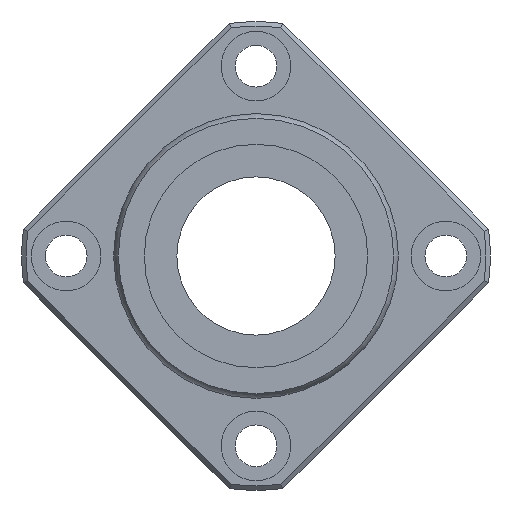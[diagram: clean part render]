
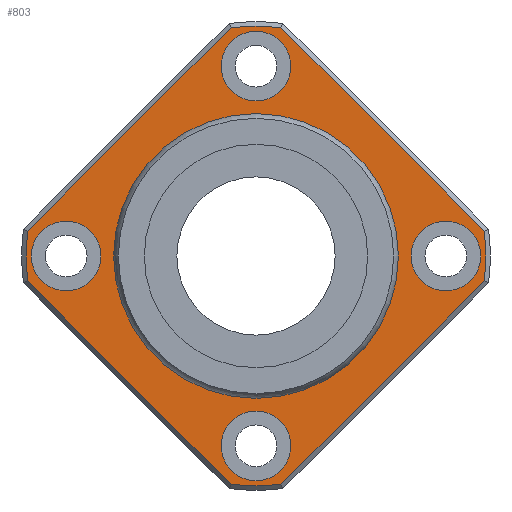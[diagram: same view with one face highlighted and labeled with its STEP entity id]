
A CAD part, left-side view. The second image highlights one B-rep face of the part: STEP entity #803.
In plain terms, the highlighted planar face has unit normal (-1, 0, 0).
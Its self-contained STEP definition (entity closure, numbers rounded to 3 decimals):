
#498=CARTESIAN_POINT('',(83.0,-3.936,-36.086));
#499=VERTEX_POINT('',#498);
#507=CARTESIAN_POINT('',(83.0,3.936,-36.086));
#508=VERTEX_POINT('',#507);
#509=CARTESIAN_POINT('',(83.0,0.0,0.0));
#510=DIRECTION('',(1.0,0.0,0.0));
#511=DIRECTION('',(0.0,0.0,-1.0));
#512=AXIS2_PLACEMENT_3D('',#509,#510,#511);
#513=CIRCLE('',#512,36.3);
#514=EDGE_CURVE('',#499,#508,#513,.T.);
#540=CARTESIAN_POINT('',(83.0,36.086,-3.936));
#541=VERTEX_POINT('',#540);
#542=CARTESIAN_POINT('',(83.0,3.936,-36.086));
#543=DIRECTION('',(0.0,0.707,0.707));
#544=VECTOR('',#543,45.466);
#545=LINE('',#542,#544);
#546=EDGE_CURVE('',#508,#541,#545,.T.);
#573=CARTESIAN_POINT('',(83.0,36.086,3.936));
#574=VERTEX_POINT('',#573);
#575=CARTESIAN_POINT('',(83.0,0.0,0.0));
#576=DIRECTION('',(1.0,0.0,0.0));
#577=DIRECTION('',(0.0,0.0,1.0));
#578=AXIS2_PLACEMENT_3D('',#575,#576,#577);
#579=CIRCLE('',#578,36.3);
#580=EDGE_CURVE('',#541,#574,#579,.T.);
#604=CARTESIAN_POINT('',(83.0,3.936,36.086));
#605=VERTEX_POINT('',#604);
#606=CARTESIAN_POINT('',(83.0,36.086,3.936));
#607=DIRECTION('',(0.0,-0.707,0.707));
#608=VECTOR('',#607,45.466);
#609=LINE('',#606,#608);
#610=EDGE_CURVE('',#574,#605,#609,.T.);
#629=CARTESIAN_POINT('',(83.0,-3.936,36.086));
#630=VERTEX_POINT('',#629);
#631=CARTESIAN_POINT('',(83.0,0.0,0.0));
#632=DIRECTION('',(1.0,0.0,0.0));
#633=DIRECTION('',(0.0,0.0,1.0));
#634=AXIS2_PLACEMENT_3D('',#631,#632,#633);
#635=CIRCLE('',#634,36.3);
#636=EDGE_CURVE('',#605,#630,#635,.T.);
#655=CARTESIAN_POINT('',(83.0,-36.086,3.936));
#656=VERTEX_POINT('',#655);
#657=CARTESIAN_POINT('',(83.0,-3.936,36.086));
#658=DIRECTION('',(0.0,-0.707,-0.707));
#659=VECTOR('',#658,45.466);
#660=LINE('',#657,#659);
#661=EDGE_CURVE('',#630,#656,#660,.T.);
#680=CARTESIAN_POINT('',(83.0,-36.086,-3.936));
#681=VERTEX_POINT('',#680);
#682=CARTESIAN_POINT('',(83.0,0.0,0.0));
#683=DIRECTION('',(1.0,0.0,0.0));
#684=DIRECTION('',(0.0,0.0,1.0));
#685=AXIS2_PLACEMENT_3D('',#682,#683,#684);
#686=CIRCLE('',#685,36.3);
#687=EDGE_CURVE('',#656,#681,#686,.T.);
#706=CARTESIAN_POINT('',(83.0,-36.086,-3.936));
#707=DIRECTION('',(0.0,0.707,-0.707));
#708=VECTOR('',#707,45.466);
#709=LINE('',#706,#708);
#710=EDGE_CURVE('',#681,#499,#709,.T.);
#733=CARTESIAN_POINT('',(83.0,0.0,29.563));
#734=DIRECTION('',(-1.0,0.0,0.0));
#735=DIRECTION('',(0.0,0.0,1.0));
#736=AXIS2_PLACEMENT_3D('',#733,#734,#735);
#737=PLANE('',#736);
#738=ORIENTED_EDGE('',*,*,#514,.F.);
#739=ORIENTED_EDGE('',*,*,#710,.F.);
#740=ORIENTED_EDGE('',*,*,#687,.F.);
#741=ORIENTED_EDGE('',*,*,#661,.F.);
#742=ORIENTED_EDGE('',*,*,#636,.F.);
#743=ORIENTED_EDGE('',*,*,#610,.F.);
#744=ORIENTED_EDGE('',*,*,#580,.F.);
#745=ORIENTED_EDGE('',*,*,#546,.F.);
#746=EDGE_LOOP('',(#738,#739,#740,#741,#742,#743,#744,#745));
#747=FACE_OUTER_BOUND('',#746,.T.);
#748=CARTESIAN_POINT('',(83.0,0.0,22.127));
#749=VERTEX_POINT('',#748);
#750=CARTESIAN_POINT('',(83.0,0.0,0.0));
#751=DIRECTION('',(-1.0,0.0,0.0));
#752=DIRECTION('',(0.0,0.0,1.0));
#753=AXIS2_PLACEMENT_3D('',#750,#751,#752);
#754=CIRCLE('',#753,22.127);
#755=EDGE_CURVE('',#749,#749,#754,.T.);
#756=ORIENTED_EDGE('',*,*,#755,.F.);
#757=EDGE_LOOP('',(#756));
#758=FACE_BOUND('',#757,.T.);
#759=CARTESIAN_POINT('',(83.0,-24.5,0.));
#760=VERTEX_POINT('',#759);
#761=CARTESIAN_POINT('',(83.0,-30.0,0.));
#762=DIRECTION('',(1.0,0.0,0.0));
#763=DIRECTION('',(0.0,1.0,0.0));
#764=AXIS2_PLACEMENT_3D('',#761,#762,#763);
#765=CIRCLE('',#764,5.5);
#766=EDGE_CURVE('',#760,#760,#765,.T.);
#767=ORIENTED_EDGE('',*,*,#766,.T.);
#768=EDGE_LOOP('',(#767));
#769=FACE_BOUND('',#768,.T.);
#770=CARTESIAN_POINT('',(83.0,35.5,0.));
#771=VERTEX_POINT('',#770);
#772=CARTESIAN_POINT('',(83.0,30.0,0.));
#773=DIRECTION('',(1.0,0.0,0.0));
#774=DIRECTION('',(0.0,1.0,0.0));
#775=AXIS2_PLACEMENT_3D('',#772,#773,#774);
#776=CIRCLE('',#775,5.5);
#777=EDGE_CURVE('',#771,#771,#776,.T.);
#778=ORIENTED_EDGE('',*,*,#777,.T.);
#779=EDGE_LOOP('',(#778));
#780=FACE_BOUND('',#779,.T.);
#781=CARTESIAN_POINT('',(83.0,5.5,30.0));
#782=VERTEX_POINT('',#781);
#783=CARTESIAN_POINT('',(83.0,0.,30.0));
#784=DIRECTION('',(1.0,0.0,0.0));
#785=DIRECTION('',(0.0,1.0,0.0));
#786=AXIS2_PLACEMENT_3D('',#783,#784,#785);
#787=CIRCLE('',#786,5.5);
#788=EDGE_CURVE('',#782,#782,#787,.T.);
#789=ORIENTED_EDGE('',*,*,#788,.T.);
#790=EDGE_LOOP('',(#789));
#791=FACE_BOUND('',#790,.T.);
#792=CARTESIAN_POINT('',(83.0,5.5,-30.0));
#793=VERTEX_POINT('',#792);
#794=CARTESIAN_POINT('',(83.0,0.,-30.0));
#795=DIRECTION('',(1.0,0.0,0.0));
#796=DIRECTION('',(0.0,1.0,0.0));
#797=AXIS2_PLACEMENT_3D('',#794,#795,#796);
#798=CIRCLE('',#797,5.5);
#799=EDGE_CURVE('',#793,#793,#798,.T.);
#800=ORIENTED_EDGE('',*,*,#799,.T.);
#801=EDGE_LOOP('',(#800));
#802=FACE_BOUND('',#801,.T.);
#803=ADVANCED_FACE('',(#747,#758,#769,#780,#791,#802),#737,.T.);
